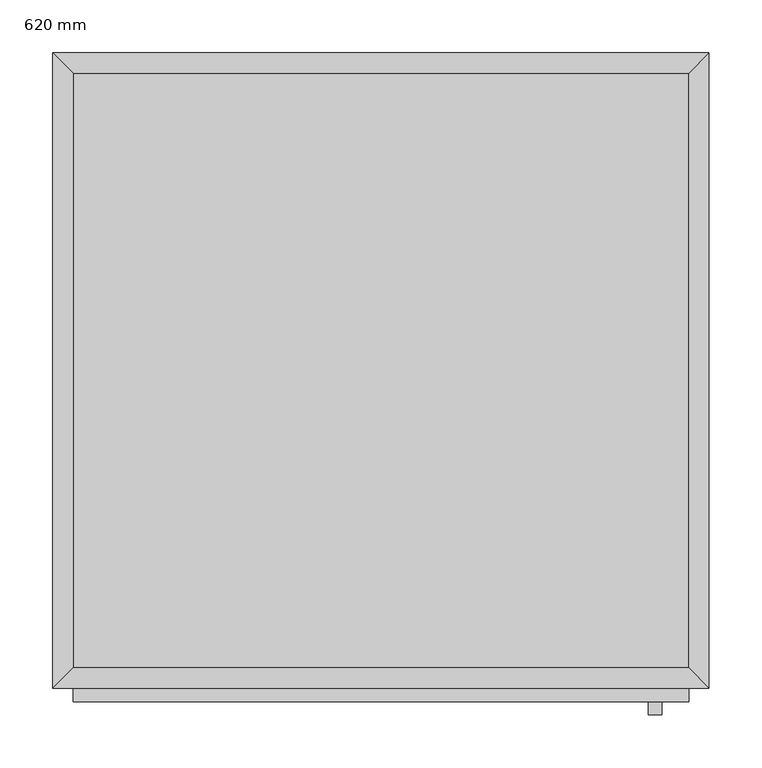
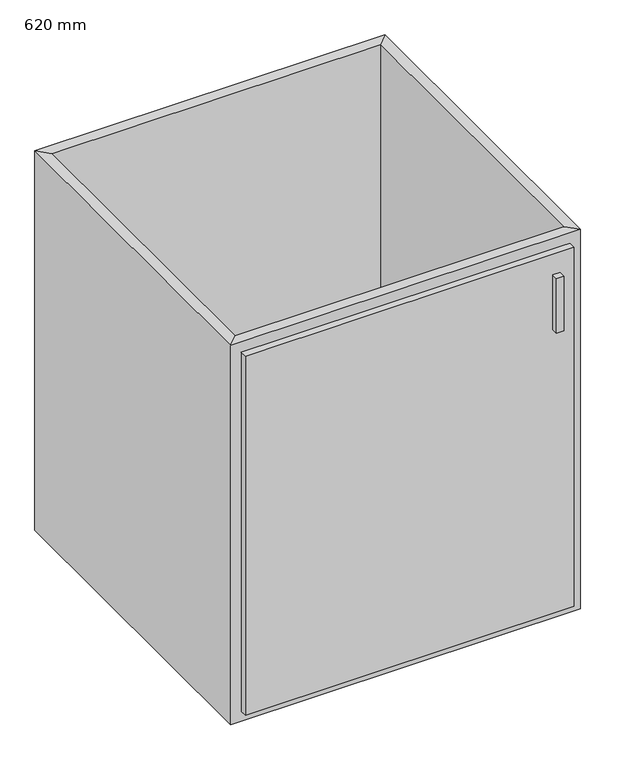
"""IFC4 building model written with IfcOpenShell, lengths in millimetres: furniture geometry, Armario-Una puerta : 620 mm."""

from ifc_helpers import new_model, si_unit, frame, origin, place, context, project, spatial, polyline, outline, extrude, faceted_brep, source, transform, mapped, element, save


def furniture_620_mm_497b6e52(model_context):
    return source(origin(), model_context, "Body", "SolidModel", [
        extrude(outline(polyline([(309.6877049, -19.05), (309.6877049, -580.95), (-272.2122951, -580.95), (-272.2122951, -19.05), (309.6877049, -19.05)])), frame((0.0, 0.0, 150.0), z_axis=(0.0, 0.0, 1.0), x_axis=(1.0, 0.0, 0.0)), (0.0, 0.0, 1.0), 19.05),
        faceted_brep([(309.6877049, -580.95, 860.0), (309.6877049, -580.95, 150.0), (-272.2122951, -580.95, 150.0), (-272.2122951, -580.95, 860.0), (328.7377049, -600.0, 860.0), (-291.2622951, -600.0, 860.0), (328.7377049, -600.0, 150.0), (-291.2622951, -600.0, 150.0), (-272.2122951, -19.05, 150.0), (-272.2122951, -19.05, 860.0), (-291.2622951, 0.0, 860.0), (-291.2622951, 0.0, 150.0), (309.6877049, -19.05, 150.0), (309.6877049, -19.05, 860.0), (328.7377049, 0.0, 860.0), (328.7377049, 0.0, 150.0)], [[[0, 1, 2, 3]], [[4, 0, 3, 5]], [[6, 4, 5, 7]], [[1, 6, 7, 2]], [[3, 2, 8, 9]], [[5, 3, 9, 10]], [[7, 5, 10, 11]], [[2, 7, 11, 8]], [[9, 8, 12, 13]], [[10, 9, 13, 14]], [[11, 10, 14, 15]], [[8, 11, 15, 12]], [[13, 12, 1, 0]], [[14, 13, 0, 4]], [[15, 14, 4, 6]], [[12, 15, 6, 1]]]),
        extrude(outline(polyline([(309.6877049, -612.7), (-272.2122951, -612.7), (-272.2122951, -600.0), (309.6877049, -600.0), (309.6877049, -612.7)])), frame((0.0, 0.0, 169.05), z_axis=(0.0, 0.0, 1.0), x_axis=(1.0, 0.0, 0.0)), (0.0, 0.0, 1.0), 671.9),
        extrude(outline(polyline([(284.2877049, -625.4), (271.5877049, -625.4), (271.5877049, -612.7), (284.2877049, -612.7), (284.2877049, -625.4)])), frame((0.0, 0.0, 701.25), z_axis=(0.0, 0.0, 1.0), x_axis=(1.0, 0.0, 0.0)), (0.0, 0.0, 1.0), 101.6),
    ])


if __name__ == "__main__":
    model = new_model("IFC4")
    model_context = context("Model", 3, world=origin())
    ifc_project = project(units=[si_unit("LENGTHUNIT", "METRE", prefix="MILLI")], contexts=[model_context])
    site = spatial("IfcSite", under=ifc_project)
    building = spatial("IfcBuilding", under=site)
    placement = place(None, origin())
    furniture_620_mm_shape = furniture_620_mm_497b6e52(model_context)
    element("IfcFurniture", 1, ObjectType="Armario-Una puerta : 620 mm", at=placement, inside=building, context=model_context, shape_type="MappedRepresentation", body=[
        mapped(furniture_620_mm_shape, transform((0.0, 0.0, 0.0), x_axis=(1.0, 0.0, 0.0), y_axis=(0.0, 1.0, 0.0), z_axis=(0.0, 0.0, 1.0))),
    ])
    save(model, "model.ifc")
